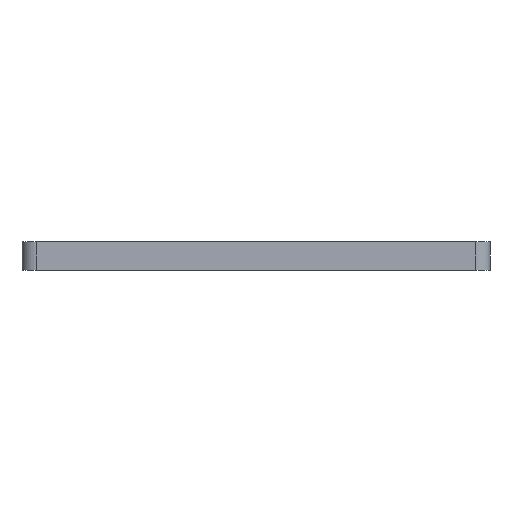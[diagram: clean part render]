
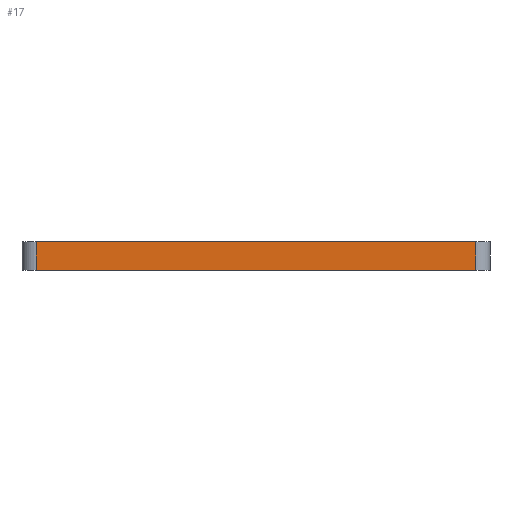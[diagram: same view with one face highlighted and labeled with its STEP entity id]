
A CAD part, left-side view. The second image highlights one B-rep face of the part: STEP entity #17.
In plain terms, the highlighted planar face has unit normal (-1, 0, 0).
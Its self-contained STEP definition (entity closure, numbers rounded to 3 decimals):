
#17 = ADVANCED_FACE('',(#18),#32,.F.);
#18 = FACE_BOUND('',#19,.F.);
#19 = EDGE_LOOP('',(#20,#55,#83,#111));
#20 = ORIENTED_EDGE('',*,*,#21,.F.);
#21 = EDGE_CURVE('',#22,#24,#26,.T.);
#22 = VERTEX_POINT('',#23);
#23 = CARTESIAN_POINT('',(-110.,-61.,4.));
#24 = VERTEX_POINT('',#25);
#25 = CARTESIAN_POINT('',(-110.,61.,4.));
#26 = SURFACE_CURVE('',#27,(#31,#43),.PCURVE_S1.);
#27 = LINE('',#28,#29);
#28 = CARTESIAN_POINT('',(-110.,-65.,4.));
#29 = VECTOR('',#30,1.);
#30 = DIRECTION('',(0.,1.,0.));
#31 = PCURVE('',#32,#37);
#32 = PLANE('',#33);
#33 = AXIS2_PLACEMENT_3D('',#34,#35,#36);
#34 = CARTESIAN_POINT('',(-110.,-65.,-4.));
#35 = DIRECTION('',(1.,0.,0.));
#36 = DIRECTION('',(0.,0.,1.));
#37 = DEFINITIONAL_REPRESENTATION('',(#38),#42);
#38 = LINE('',#39,#40);
#39 = CARTESIAN_POINT('',(8.,0.));
#40 = VECTOR('',#41,1.);
#41 = DIRECTION('',(0.,-1.));
#42 = ( GEOMETRIC_REPRESENTATION_CONTEXT(2) 
PARAMETRIC_REPRESENTATION_CONTEXT() REPRESENTATION_CONTEXT('2D SPACE',''
  ) );
#43 = PCURVE('',#44,#49);
#44 = PLANE('',#45);
#45 = AXIS2_PLACEMENT_3D('',#46,#47,#48);
#46 = CARTESIAN_POINT('',(-110.,-65.,4.));
#47 = DIRECTION('',(0.,0.,1.));
#48 = DIRECTION('',(1.,0.,0.));
#49 = DEFINITIONAL_REPRESENTATION('',(#50),#54);
#50 = LINE('',#51,#52);
#51 = CARTESIAN_POINT('',(0.,0.));
#52 = VECTOR('',#53,1.);
#53 = DIRECTION('',(0.,1.));
#54 = ( GEOMETRIC_REPRESENTATION_CONTEXT(2) 
PARAMETRIC_REPRESENTATION_CONTEXT() REPRESENTATION_CONTEXT('2D SPACE',''
  ) );
#55 = ORIENTED_EDGE('',*,*,#56,.F.);
#56 = EDGE_CURVE('',#57,#22,#59,.T.);
#57 = VERTEX_POINT('',#58);
#58 = CARTESIAN_POINT('',(-110.,-61.,-4.));
#59 = SURFACE_CURVE('',#60,(#64,#71),.PCURVE_S1.);
#60 = LINE('',#61,#62);
#61 = CARTESIAN_POINT('',(-110.,-61.,-4.));
#62 = VECTOR('',#63,1.);
#63 = DIRECTION('',(0.,0.,1.));
#64 = PCURVE('',#32,#65);
#65 = DEFINITIONAL_REPRESENTATION('',(#66),#70);
#66 = LINE('',#67,#68);
#67 = CARTESIAN_POINT('',(0.,-4.));
#68 = VECTOR('',#69,1.);
#69 = DIRECTION('',(1.,0.));
#70 = ( GEOMETRIC_REPRESENTATION_CONTEXT(2) 
PARAMETRIC_REPRESENTATION_CONTEXT() REPRESENTATION_CONTEXT('2D SPACE',''
  ) );
#71 = PCURVE('',#72,#77);
#72 = CYLINDRICAL_SURFACE('',#73,4.);
#73 = AXIS2_PLACEMENT_3D('',#74,#75,#76);
#74 = CARTESIAN_POINT('',(-106.,-61.,-4.));
#75 = DIRECTION('',(0.,0.,1.));
#76 = DIRECTION('',(-1.,-0.,0.));
#77 = DEFINITIONAL_REPRESENTATION('',(#78),#82);
#78 = LINE('',#79,#80);
#79 = CARTESIAN_POINT('',(0.,0.));
#80 = VECTOR('',#81,1.);
#81 = DIRECTION('',(0.,1.));
#82 = ( GEOMETRIC_REPRESENTATION_CONTEXT(2) 
PARAMETRIC_REPRESENTATION_CONTEXT() REPRESENTATION_CONTEXT('2D SPACE',''
  ) );
#83 = ORIENTED_EDGE('',*,*,#84,.T.);
#84 = EDGE_CURVE('',#57,#85,#87,.T.);
#85 = VERTEX_POINT('',#86);
#86 = CARTESIAN_POINT('',(-110.,61.,-4.));
#87 = SURFACE_CURVE('',#88,(#92,#99),.PCURVE_S1.);
#88 = LINE('',#89,#90);
#89 = CARTESIAN_POINT('',(-110.,-65.,-4.));
#90 = VECTOR('',#91,1.);
#91 = DIRECTION('',(0.,1.,0.));
#92 = PCURVE('',#32,#93);
#93 = DEFINITIONAL_REPRESENTATION('',(#94),#98);
#94 = LINE('',#95,#96);
#95 = CARTESIAN_POINT('',(0.,0.));
#96 = VECTOR('',#97,1.);
#97 = DIRECTION('',(0.,-1.));
#98 = ( GEOMETRIC_REPRESENTATION_CONTEXT(2) 
PARAMETRIC_REPRESENTATION_CONTEXT() REPRESENTATION_CONTEXT('2D SPACE',''
  ) );
#99 = PCURVE('',#100,#105);
#100 = PLANE('',#101);
#101 = AXIS2_PLACEMENT_3D('',#102,#103,#104);
#102 = CARTESIAN_POINT('',(-110.,-65.,-4.));
#103 = DIRECTION('',(0.,0.,1.));
#104 = DIRECTION('',(1.,0.,0.));
#105 = DEFINITIONAL_REPRESENTATION('',(#106),#110);
#106 = LINE('',#107,#108);
#107 = CARTESIAN_POINT('',(0.,0.));
#108 = VECTOR('',#109,1.);
#109 = DIRECTION('',(0.,1.));
#110 = ( GEOMETRIC_REPRESENTATION_CONTEXT(2) 
PARAMETRIC_REPRESENTATION_CONTEXT() REPRESENTATION_CONTEXT('2D SPACE',''
  ) );
#111 = ORIENTED_EDGE('',*,*,#112,.T.);
#112 = EDGE_CURVE('',#85,#24,#113,.T.);
#113 = SURFACE_CURVE('',#114,(#118,#125),.PCURVE_S1.);
#114 = LINE('',#115,#116);
#115 = CARTESIAN_POINT('',(-110.,61.,-4.));
#116 = VECTOR('',#117,1.);
#117 = DIRECTION('',(0.,0.,1.));
#118 = PCURVE('',#32,#119);
#119 = DEFINITIONAL_REPRESENTATION('',(#120),#124);
#120 = LINE('',#121,#122);
#121 = CARTESIAN_POINT('',(0.,-126.));
#122 = VECTOR('',#123,1.);
#123 = DIRECTION('',(1.,0.));
#124 = ( GEOMETRIC_REPRESENTATION_CONTEXT(2) 
PARAMETRIC_REPRESENTATION_CONTEXT() REPRESENTATION_CONTEXT('2D SPACE',''
  ) );
#125 = PCURVE('',#126,#131);
#126 = CYLINDRICAL_SURFACE('',#127,4.);
#127 = AXIS2_PLACEMENT_3D('',#128,#129,#130);
#128 = CARTESIAN_POINT('',(-106.,61.,-4.));
#129 = DIRECTION('',(0.,0.,1.));
#130 = DIRECTION('',(-1.,-0.,0.));
#131 = DEFINITIONAL_REPRESENTATION('',(#132),#136);
#132 = LINE('',#133,#134);
#133 = CARTESIAN_POINT('',(-0.,0.));
#134 = VECTOR('',#135,1.);
#135 = DIRECTION('',(-0.,1.));
#136 = ( GEOMETRIC_REPRESENTATION_CONTEXT(2) 
PARAMETRIC_REPRESENTATION_CONTEXT() REPRESENTATION_CONTEXT('2D SPACE',''
  ) );
